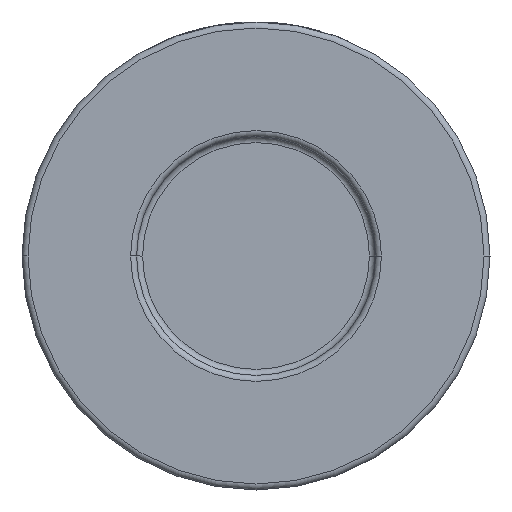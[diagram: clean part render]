
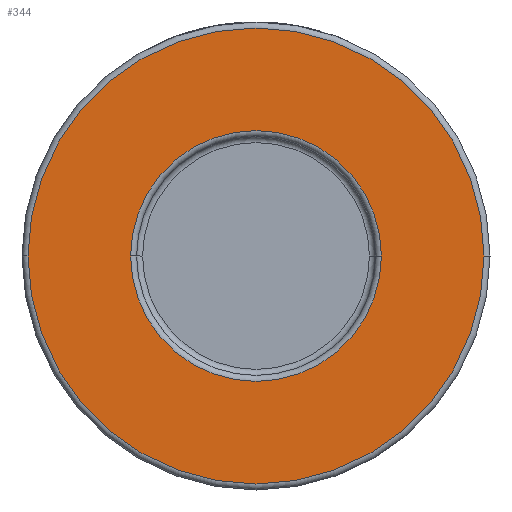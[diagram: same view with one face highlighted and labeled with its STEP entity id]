
A CAD part, front view. The second image highlights one B-rep face of the part: STEP entity #344.
In plain terms, the highlighted planar face has unit normal (0, -1, 0).
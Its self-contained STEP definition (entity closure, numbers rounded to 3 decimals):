
#14 = DIRECTION ( 'NONE',  ( 0., -1., 0. ) ) ;
#229 = AXIS2_PLACEMENT_3D ( 'NONE', #241, #1571, #541 ) ;
#237 = CARTESIAN_POINT ( 'NONE',  ( 20.9, -19., 0. ) ) ;
#241 = CARTESIAN_POINT ( 'NONE',  ( 0., -19., 0. ) ) ;
#244 = CARTESIAN_POINT ( 'NONE',  ( 0., -19., 0. ) ) ;
#285 = VERTEX_POINT ( 'NONE', #291 ) ;
#291 = CARTESIAN_POINT ( 'NONE',  ( 38., -19., 0. ) ) ;
#344 = ADVANCED_FACE ( 'NONE', ( #4186, #3112 ), #2102, .T. ) ;
#541 = DIRECTION ( 'NONE',  ( 1., 0., 0. ) ) ;
#561 = EDGE_LOOP ( 'NONE', ( #3892, #4153 ) ) ;
#584 = VERTEX_POINT ( 'NONE', #237 ) ;
#588 = DIRECTION ( 'NONE',  ( 0., -1., 0. ) ) ;
#730 = EDGE_CURVE ( 'NONE', #285, #1284, #3013, .T. ) ;
#782 = CIRCLE ( 'NONE', #1382, 20.9 ) ;
#970 = EDGE_CURVE ( 'NONE', #4294, #584, #1768, .T. ) ;
#1046 = CARTESIAN_POINT ( 'NONE',  ( 0., -19., 0. ) ) ;
#1284 = VERTEX_POINT ( 'NONE', #2319 ) ;
#1291 = CARTESIAN_POINT ( 'NONE',  ( 0., -19., 0. ) ) ;
#1382 = AXIS2_PLACEMENT_3D ( 'NONE', #1046, #2094, #2758 ) ;
#1408 = AXIS2_PLACEMENT_3D ( 'NONE', #1291, #1717, #4517 ) ;
#1571 = DIRECTION ( 'NONE',  ( 0., 1., 0. ) ) ;
#1717 = DIRECTION ( 'NONE',  ( 0., -1., 0. ) ) ;
#1768 = CIRCLE ( 'NONE', #229, 20.9 ) ;
#2031 = ORIENTED_EDGE ( 'NONE', *, *, #730, .T. ) ;
#2034 = CARTESIAN_POINT ( 'NONE',  ( -20.9, -19., 0. ) ) ;
#2094 = DIRECTION ( 'NONE',  ( 0., 1., 0. ) ) ;
#2102 = PLANE ( 'NONE',  #3034 ) ;
#2319 = CARTESIAN_POINT ( 'NONE',  ( -38., -19., 0. ) ) ;
#2689 = CIRCLE ( 'NONE', #4082, 38. ) ;
#2758 = DIRECTION ( 'NONE',  ( 1., 0., 0. ) ) ;
#3013 = CIRCLE ( 'NONE', #1408, 38. ) ;
#3034 = AXIS2_PLACEMENT_3D ( 'NONE', #4505, #14, #3885 ) ;
#3112 = FACE_OUTER_BOUND ( 'NONE', #3869, .T. ) ;
#3390 = EDGE_CURVE ( 'NONE', #1284, #285, #2689, .T. ) ;
#3464 = ORIENTED_EDGE ( 'NONE', *, *, #3390, .T. ) ;
#3666 = DIRECTION ( 'NONE',  ( 1., 0., 0. ) ) ;
#3844 = EDGE_CURVE ( 'NONE', #584, #4294, #782, .T. ) ;
#3869 = EDGE_LOOP ( 'NONE', ( #2031, #3464 ) ) ;
#3885 = DIRECTION ( 'NONE',  ( 1., 0., 0. ) ) ;
#3892 = ORIENTED_EDGE ( 'NONE', *, *, #3844, .T. ) ;
#4082 = AXIS2_PLACEMENT_3D ( 'NONE', #244, #588, #3666 ) ;
#4153 = ORIENTED_EDGE ( 'NONE', *, *, #970, .T. ) ;
#4186 = FACE_BOUND ( 'NONE', #561, .T. ) ;
#4294 = VERTEX_POINT ( 'NONE', #2034 ) ;
#4505 = CARTESIAN_POINT ( 'NONE',  ( 39., -19., 0. ) ) ;
#4517 = DIRECTION ( 'NONE',  ( 1., 0., 0. ) ) ;
